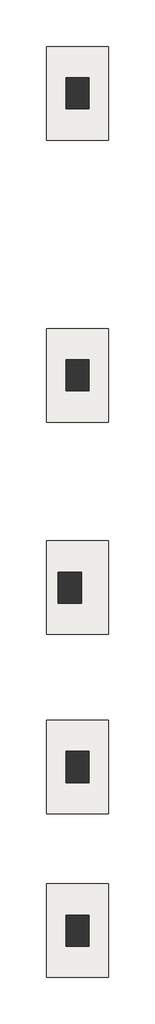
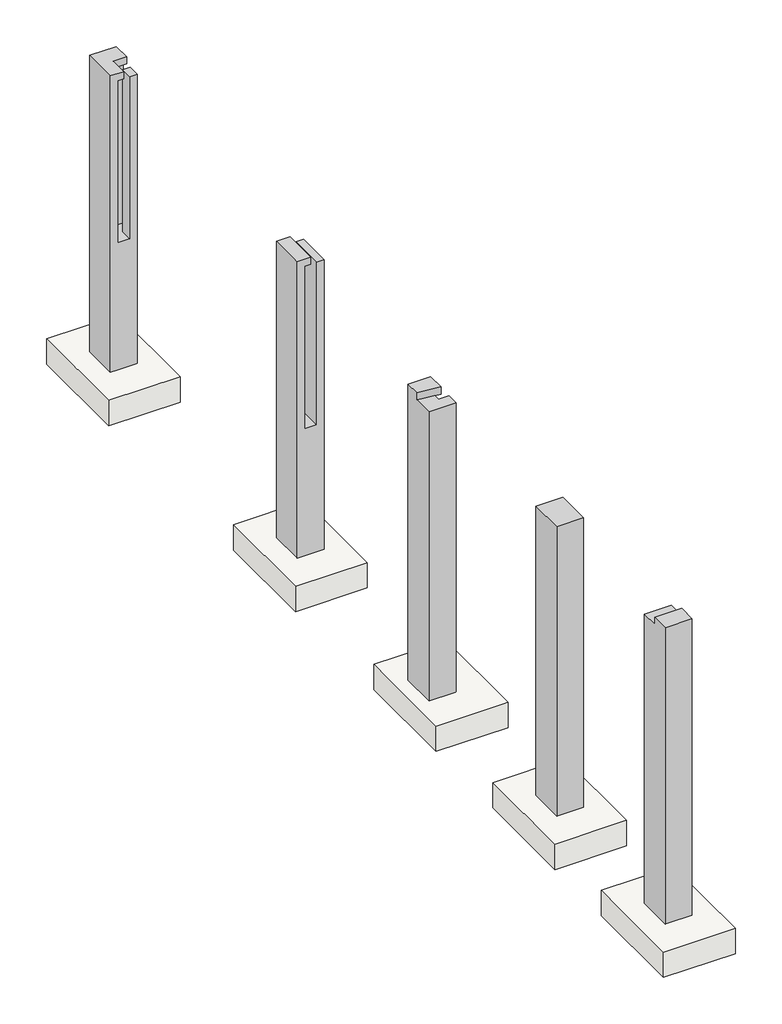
# One storey: 5 columns, 5 slabs.
"""IFC4 building model written with IfcOpenShell, lengths in millimetres."""

from ifc_helpers import new_model, si_unit, frame, origin, place, context, project, spatial, polyline, circle_curve, outline, extrude, faceted_brep, transform, mapped, element, save
from ifc_brep_helpers import plane_surface, revolved_surface, advanced_brep
from components import slab_5ba74754

model = new_model("IFC4")

# Units and contexts
model_context = context("Model", 3, world=origin())
ifc_project = project(units=[si_unit("LENGTHUNIT", "METRE", prefix="MILLI")], contexts=[model_context])

# Site, building, storey
site = spatial("IfcSite", under=ifc_project)
building = spatial("IfcBuilding", under=site)
storey = spatial("IfcBuildingStorey", under=building, Name="Subgrade", Elevation=-2286.0)

# Columns
placement = place(None, origin())
element("IfcColumn", 1, ObjectType="Concrete-Rectangular-Column : 18 x 24", at=placement, inside=storey, context=model_context, shape_type="Brep", body=[
    faceted_brep([(-16004.2573223, 30120.1162395, -2286.0), (-16004.2573223, 29510.5162395, -2286.0), (-16461.4573223, 29510.5162395, -2286.0), (-16461.4573223, 30120.1162395, -2286.0), (-16004.2573223, 30120.1162395, 3048.0), (-16004.2573223, 29815.3162395, 3048.0), (-16004.2573223, 29815.3162395, 2921.0), (-16004.2573223, 29916.9162395, 2921.0), (-16004.2573223, 29916.9162395, 0.0), (-16004.2573223, 29713.7162395, 0.0), (-16004.2573223, 29713.7162395, 2921.0), (-16004.2573223, 29510.5162395, 2921.0), (-16131.2573223, 29510.5162395, 2921.0), (-16131.2573223, 29510.5162395, 0.0), (-16334.4573223, 29510.5162395, 0.0), (-16334.4573223, 29510.5162395, 2921.0), (-16232.8573223, 29510.5162395, 2921.0), (-16232.8573223, 29510.5162395, 3048.0), (-16461.4573223, 29510.5162395, 3048.0), (-16461.4573223, 30120.1162395, 3048.0), (-16232.8573223, 29815.3162395, 3048.0), (-16334.4573223, 29916.9162395, 0.0), (-16334.4573223, 29916.9162395, 2921.0), (-16334.4573223, 29815.3162395, 2921.0), (-16131.2573223, 29713.7162395, 2921.0), (-16131.2573223, 29713.7162395, 0.0), (-16131.2573223, 29916.9162395, 0.0), (-16131.2573223, 29916.9162395, 2921.0), (-16232.8573223, 29916.9162395, 2921.0), (-16232.8573223, 29815.3162395, 2921.0), (-16131.2573223, 29815.3162395, 2921.0)], [[[0, 1, 2, 3]], [[1, 0, 4, 5, 6, 7, 8, 9, 10, 11]], [[2, 1, 11, 12, 13, 14, 15, 16, 17, 18]], [[3, 2, 18, 19]], [[0, 3, 19, 4]], [[19, 18, 17, 20, 5, 4]], [[21, 22, 23, 15, 14]], [[13, 12, 24, 25]], [[22, 21, 26, 8, 7, 27, 28]], [[10, 9, 25, 24]], [[11, 10, 24, 12]], [[20, 29, 30, 6, 5]], [[29, 20, 17, 16]], [[23, 29, 16, 15]], [[29, 28, 27, 7, 6, 30]], [[23, 22, 28, 29]], [[21, 14, 13, 25, 9, 8, 26]]]),
])
element("IfcColumn", 2, ObjectType="Concrete-Rectangular-Column : 18 x 24", at=placement, inside=storey, context=model_context, shape_type="SweptSolid", body=[
    extrude(outline(polyline([(-2286.0, -16461.4573223), (-2286.0, -16004.2573223), (2921.0, -16004.2573223), (2921.0, -16131.2573223), (0.0, -16131.2573223), (0.0, -16334.4573223), (2921.0, -16334.4573223), (2921.0, -16232.8573223), (3048.0, -16232.8573223), (3048.0, -16461.4573223), (-2286.0, -16461.4573223)])), frame((0.0, 23995.7513453, 0.0), z_axis=(0.0, 1.0, 0.0), x_axis=(0.0, 0.0, 1.0)), (0.0, 0.0, 1.0), 609.6),
])
element("IfcColumn", 3, ObjectType="Concrete-Rectangular-Column : 18 x 24", at=placement, inside=storey, context=model_context, shape_type="AdvancedBrep", body=[
    advanced_brep(
    [(-16156.6573223, 20456.1383993, -2286.0), (-16156.6573223, 19846.5383993, -2286.0), (-16613.8573223, 19846.5383993, -2286.0), (-16613.8573223, 20456.1383993, -2286.0), (-16156.6573223, 20456.1383993, 0.0), (-16156.6573223, 20049.7383993, 0.0), (-16156.6573223, 20049.7383993, 2921.0), (-16156.6573223, 19846.5383993, 2921.0), (-16613.8573223, 19846.5383993, 2921.0), (-16613.8573223, 20196.0548274, 2921.0), (-16613.8573223, 20196.0548274, 3048.0), (-16613.8573223, 20456.1383993, 3048.0), (-16232.8573223, 20456.1383993, 3048.0), (-16232.8573223, 20456.1383993, 2921.0), (-16334.4573223, 20456.1383993, 2921.0), (-16334.4573223, 20456.1383993, 0.0), (-16232.8573223, 20151.3383993, 3048.0), (-16334.4573223, 20167.5689688, 2921.0), (-16334.4573223, 20049.7383993, 2921.0), (-16334.4573223, 20049.7383993, 0.0), (-16232.8573223, 20151.3383993, 2921.0)],
    [
        (0, 1),
        (1, 2),
        (2, 3),
        (3, 0),
        (0, 4),
        (4, 5),
        (5, 6),
        (6, 7),
        (7, 1),
        (7, 8),
        (8, 2),
        (8, 9),
        (9, 10),
        (10, 11),
        (11, 3),
        (11, 12),
        (12, 13),
        (13, 14),
        (14, 15),
        (15, 4),
        (10, 16, circle_curve(frame((-16816.5048872, 16823.9383993, 3048.0), z_axis=(0.0, 0.0, -1.0), x_axis=(1.0, 0.0, 0.0)), 3378.2)),
        (16, 12),
        (14, 17),
        (17, 18),
        (18, 19),
        (19, 15),
        (17, 9, circle_curve(frame((-16816.5048872, 16823.9383993, 2921.0), z_axis=(0.0, 0.0, 1.0), x_axis=(1.0, 0.0, 0.0)), 3378.2)),
        (6, 18),
        (20, 16),
        (17, 20, circle_curve(frame((-16816.5048872, 16823.9383993, 2921.0), z_axis=(0.0, 0.0, -1.0), x_axis=(1.0, 0.0, 0.0)), 3378.2)),
        (20, 13),
        (5, 19),
    ],
    [
        plane_surface(frame((-16613.8573223, 20456.1383993, -2286.0), z_axis=(0.0, 0.0, -1.0), x_axis=(1.0, 0.0, 0.0))),
        plane_surface(frame((-16156.6573223, 19846.5383993, 3048.0), z_axis=(1.0, 0.0, 0.0), x_axis=(0.0, 0.0, -1.0))),
        plane_surface(frame((-16613.8573223, 19846.5383993, 3048.0), z_axis=(0.0, -1.0, 0.0), x_axis=(0.0, 0.0, -1.0))),
        plane_surface(frame((-16613.8573223, 20456.1383993, 3048.0), z_axis=(-1.0, 0.0, 0.0), x_axis=(0.0, 0.0, -1.0))),
        plane_surface(frame((-16156.6573223, 20456.1383993, 3048.0), z_axis=(0.0, 1.0, 0.0), x_axis=(0.0, 0.0, -1.0))),
        plane_surface(frame((-16613.8573223, 20456.1383993, 3048.0), z_axis=(0.0, 0.0, 1.0), x_axis=(-1.0, 0.0, 0.0))),
        plane_surface(frame((-16334.4573223, 29815.3162395, 0.0), z_axis=(1.0, 0.0, 0.0), x_axis=(0.0, -1.0, 0.0))),
        plane_surface(frame((-6631.6573223, 29815.3162395, 2921.0), z_axis=(0.0, 0.0, 1.0), x_axis=(1.0, 0.0, 0.0))),
        revolved_surface(polyline([(-13438.3048872, 16823.9383993, 2921.0), (-13438.3048872, 16823.9383993, 3048.0)]), (-16816.5048872, 16823.9383993, 3048.0), (0.0, 0.0, -1.0)),
        plane_surface(frame((-16232.8573223, 20151.3383993, 2921.0), z_axis=(1.0, 0.0, 0.0), x_axis=(0.0, 0.0, 1.0))),
        plane_surface(frame((-16232.8573223, 20049.7383993, 0.0), z_axis=(0.0, 1.0, 0.0), x_axis=(1.0, 0.0, 0.0))),
        plane_surface(frame((-16334.4573223, 20151.3383993, 2921.0), z_axis=(0.0, 0.0, -1.0), x_axis=(1.0, 0.0, 0.0))),
        plane_surface(frame((-16334.4573223, 29815.3162395, 0.0), z_axis=(0.0, 0.0, 1.0), x_axis=(1.0, 0.0, 0.0))),
    ],
    [
        (0, [[1, 2, 3, 4]]),
        (1, [[-1, 5, 6, 7, 8, 9]]),
        (2, [[-2, -9, 10, 11]]),
        (3, [[-3, -11, 12, 13, 14, 15]]),
        (4, [[-4, -15, 16, 17, 18, 19, 20, -5]]),
        (5, [[-16, -14, 21, 22]]),
        (6, [[-19, 23, 24, 25, 26]]),
        (7, [[27, -12, -10, -8, 28, -24]]),
        (8, [[29, -21, -13, -27, 30]]),
        (9, [[-29, 31, -17, -22]]),
        (10, [[-25, -28, -7, 32]]),
        (11, [[-23, -18, -31, -30]]),
        (12, [[-26, -32, -6, -20]]),
    ],
),
])
element("IfcColumn", 4, ObjectType="Concrete-Rectangular-Column : 18 x 24", at=placement, inside=storey, context=model_context, shape_type="SweptSolid", body=[
    extrude(outline(polyline([(13750.5383993, -2286.0), (13140.9383993, -2286.0), (13140.9383993, 3048.0), (13445.7383993, 3048.0), (13445.7383993, 2921.0), (13750.5383993, 2921.0), (13750.5383993, -2286.0)])), frame((-16461.4573223, 0.0, 0.0), z_axis=(1.0, 0.0, 0.0), x_axis=(0.0, 1.0, 0.0)), (0.0, 0.0, 1.0), 457.2),
])
element("IfcColumn", 5, ObjectType="Concrete-Rectangular-Column : 18 x 24", at=placement, inside=storey, context=model_context, shape_type="SweptSolid", body=[
    extrude(outline(polyline([(-16004.2573223, 16950.9383993), (-16004.2573223, 16341.3383993), (-16461.4573223, 16341.3383993), (-16461.4573223, 16950.9383993), (-16004.2573223, 16950.9383993)])), frame((0.0, 0.0, -2286.0), z_axis=(0.0, 0.0, 1.0), x_axis=(1.0, 0.0, 0.0)), (0.0, 0.0, 1.0), 5207.0),
])

# Slabs
slab_shape = slab_5ba74754(model_context)
element("IfcSlab", 6, ObjectType="Footing-Rectangular : 72\" x 48\" x 18\"", at=placement, inside=storey, context=model_context, shape_type="MappedRepresentation", body=[
    mapped(slab_shape, transform((-16232.8573223, 29815.3162395, -2286.0), x_axis=(1.0, 0.0, 0.0), y_axis=(0.0, 1.0, 0.0), z_axis=(0.0, 0.0, 1.0))),
])
element("IfcSlab", 7, ObjectType="Footing-Rectangular : 72\" x 48\" x 18\"", at=placement, inside=storey, context=model_context, shape_type="MappedRepresentation", body=[
    mapped(slab_shape, transform((-16232.8573223, 24300.5513453, -2286.0), x_axis=(1.0, 0.0, 0.0), y_axis=(0.0, 1.0, 0.0), z_axis=(0.0, 0.0, 1.0))),
])
element("IfcSlab", 8, ObjectType="Footing-Rectangular : 72\" x 48\" x 18\"", at=placement, inside=storey, context=model_context, shape_type="MappedRepresentation", body=[
    mapped(slab_shape, transform((-16232.8573223, 20151.3383993, -2286.0), x_axis=(1.0, 0.0, 0.0), y_axis=(0.0, 1.0, 0.0), z_axis=(0.0, 0.0, 1.0))),
])
element("IfcSlab", 9, ObjectType="Footing-Rectangular : 72\" x 48\" x 18\"", at=placement, inside=storey, context=model_context, shape_type="MappedRepresentation", body=[
    mapped(slab_shape, transform((-16232.8573223, 16646.1383993, -2286.0), x_axis=(1.0, 0.0, 0.0), y_axis=(0.0, 1.0, 0.0), z_axis=(0.0, 0.0, 1.0))),
])
element("IfcSlab", 10, ObjectType="Footing-Rectangular : 72\" x 48\" x 18\"", at=placement, inside=storey, context=model_context, shape_type="MappedRepresentation", body=[
    mapped(slab_shape, transform((-16232.8573223, 13445.7383993, -2286.0), x_axis=(1.0, 0.0, 0.0), y_axis=(0.0, 1.0, 0.0), z_axis=(0.0, 0.0, 1.0))),
])

save(model, "model.ifc")
